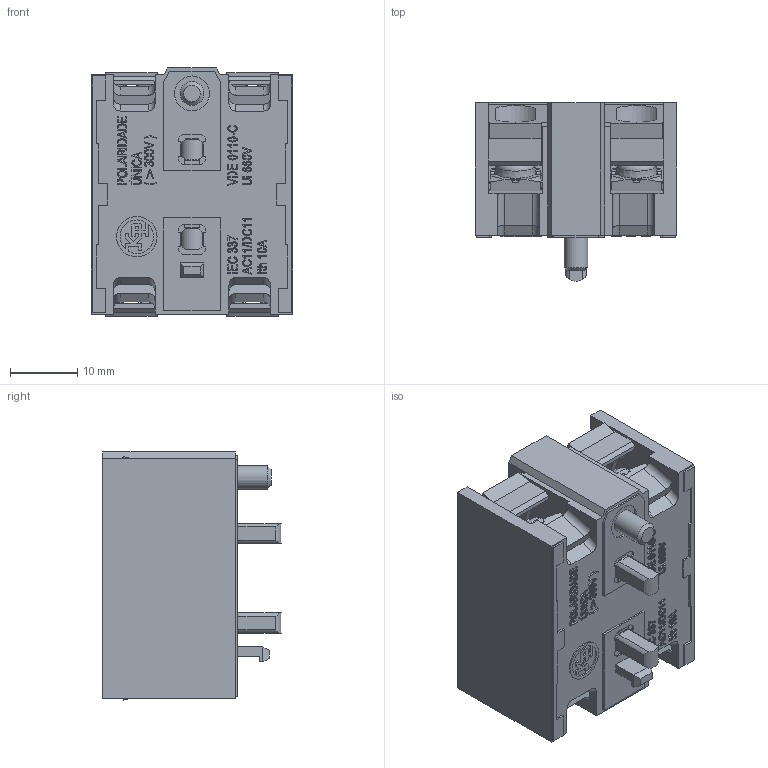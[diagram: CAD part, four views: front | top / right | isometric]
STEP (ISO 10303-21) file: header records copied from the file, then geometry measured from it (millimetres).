
FILE_DESCRIPTION((''),'2;1');
FILE_NAME('E:\WorkFolder\Serie\C5\C5AB11.stp','2009-11-03T10:47:08',('andre'),(''),'Autodesk Inventor 10','Autodesk Inventor 10','');
FILE_SCHEMA(('AUTOMOTIVE_DESIGN { 1 0 10303 214 1 1 1 1 }'));
Length unit declared in the file: millimetre
Products named in the file (1): C5AB11
Bounding box: 30 x 26.49 x 36.9 mm (x, y, z)
Volume: 17930.6 mm3; surface area: 7435 mm2
Topology: 1 solids, 1 shells, 1564 faces, 4324 edges, 2833 vertices
Faces by surface type: plane 1085, bspline 283, cylinder 122, cone 30, torus 24, sphere 20
Full cylindrical faces by diameter (mm): 2.85 x1, 3.5 x1, 3.8 x1, 5.2 x1, 6 x2
Entity records: 54642 total; most frequent: CARTESIAN_POINT 16365, ORIENTED_EDGE 8558, DIRECTION 6849, EDGE_CURVE 4279, VECTOR 3125, LINE 3125, VERTEX_POINT 2824, AXIS2_PLACEMENT_3D 1862
